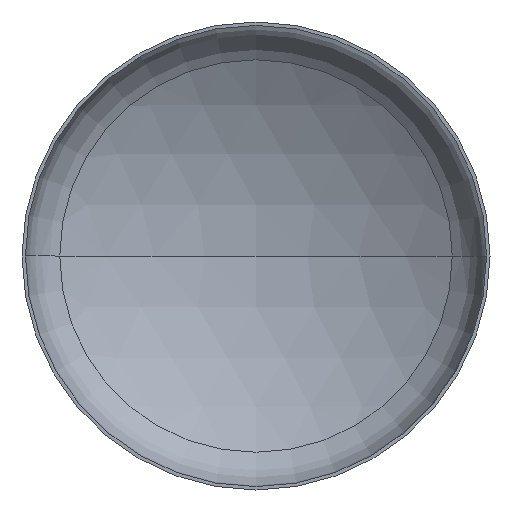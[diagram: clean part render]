
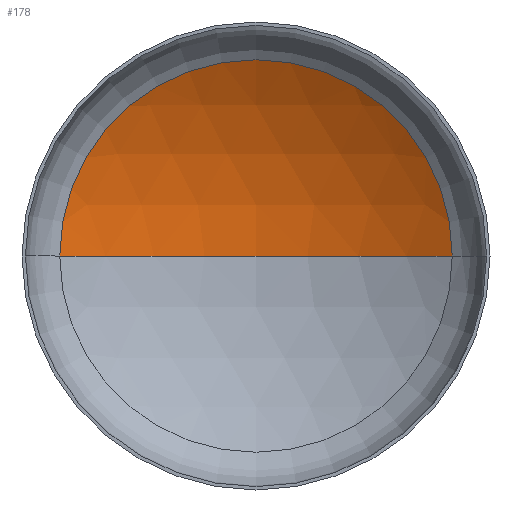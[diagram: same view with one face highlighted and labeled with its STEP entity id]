
A CAD part, front view. The second image highlights one B-rep face of the part: STEP entity #178.
In plain terms, the highlighted spherical face has radius 4800 mm.
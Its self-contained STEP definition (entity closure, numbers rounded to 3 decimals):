
#9 = FACE_OUTER_BOUND ( 'NONE', #127, .T. ) ;
#14 = DIRECTION ( 'NONE',  ( 0., 0., -1. ) ) ;
#39 = ORIENTED_EDGE ( 'NONE', *, *, #224, .F. ) ;
#67 = DIRECTION ( 'NONE',  ( -1., 0., 0. ) ) ;
#89 = CARTESIAN_POINT ( 'NONE',  ( -2515.819, 927.766, 0. ) ) ;
#97 = AXIS2_PLACEMENT_3D ( 'NONE', #126, #313, #334 ) ;
#113 = AXIS2_PLACEMENT_3D ( 'NONE', #293, #14, #67 ) ;
#115 = AXIS2_PLACEMENT_3D ( 'NONE', #188, #183, #187 ) ;
#120 = VERTEX_POINT ( 'NONE', #203 ) ;
#126 = CARTESIAN_POINT ( 'NONE',  ( 0., -3160.101, 0. ) ) ;
#127 = EDGE_LOOP ( 'NONE', ( #39, #268, #390 ) ) ;
#153 = AXIS2_PLACEMENT_3D ( 'NONE', #329, #331, #324 ) ;
#178 = ADVANCED_FACE ( 'NONE', ( #9 ), #363, .F. ) ;
#183 = DIRECTION ( 'NONE',  ( 0., -1., 0. ) ) ;
#187 = DIRECTION ( 'NONE',  ( 1., 0., 0. ) ) ;
#188 = CARTESIAN_POINT ( 'NONE',  ( 0., 927.766, 0. ) ) ;
#203 = CARTESIAN_POINT ( 'NONE',  ( 0., 1639.899, 0. ) ) ;
#205 = CARTESIAN_POINT ( 'NONE',  ( 2515.819, 927.766, 0. ) ) ;
#213 = EDGE_CURVE ( 'NONE', #374, #326, #300, .T. ) ;
#218 = EDGE_CURVE ( 'NONE', #120, #374, #344, .T. ) ;
#224 = EDGE_CURVE ( 'NONE', #120, #326, #291, .T. ) ;
#268 = ORIENTED_EDGE ( 'NONE', *, *, #218, .T. ) ;
#291 = CIRCLE ( 'NONE', #97, 4800. ) ;
#293 = CARTESIAN_POINT ( 'NONE',  ( 0., -3160.101, 0. ) ) ;
#300 = CIRCLE ( 'NONE', #115, 2515.819 ) ;
#313 = DIRECTION ( 'NONE',  ( 0., 0., 1. ) ) ;
#324 = DIRECTION ( 'NONE',  ( -1., 0., 0. ) ) ;
#326 = VERTEX_POINT ( 'NONE', #89 ) ;
#329 = CARTESIAN_POINT ( 'NONE',  ( 0., -3160.101, 0. ) ) ;
#331 = DIRECTION ( 'NONE',  ( 0., 0., -1. ) ) ;
#334 = DIRECTION ( 'NONE',  ( 1., 0., 0. ) ) ;
#344 = CIRCLE ( 'NONE', #113, 4800. ) ;
#363 = SPHERICAL_SURFACE ( 'NONE', #153, 4800. ) ;
#374 = VERTEX_POINT ( 'NONE', #205 ) ;
#390 = ORIENTED_EDGE ( 'NONE', *, *, #213, .T. ) ;
